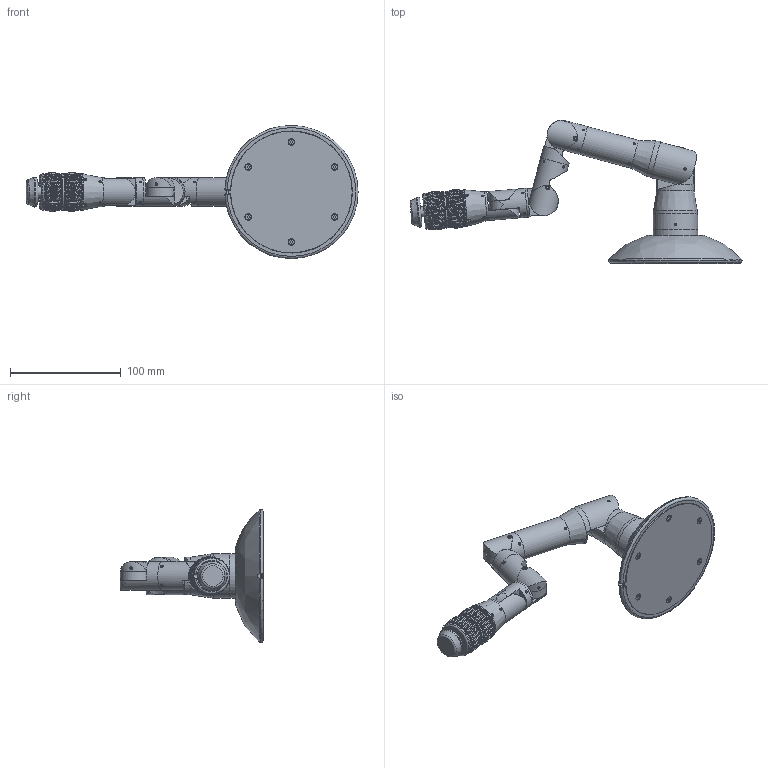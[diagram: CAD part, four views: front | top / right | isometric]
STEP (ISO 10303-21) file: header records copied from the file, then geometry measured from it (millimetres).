
FILE_DESCRIPTION(/* description */ ('Assembly Manipulator Master Control Arm USB V2','CAx-IF Rec.Pracs.---Representation and Presentation of Product Manufacturing Information (PMI)---4.0---2014-10-13'),/* implementation_level */ '2;1');
FILE_NAME(/* name */ '117012 v1.step',/* time_stamp */ '2024-12-18T11:51:30+01:00',/* author */ (''),/* organization */ (''),/* preprocessor_version */ 'ST-DEVELOPER v20',/* originating_system */ 'Autodesk Translation Framework v13.20.0.188',/* authorisation */ '');
FILE_SCHEMA (('AP242_MANAGED_MODEL_BASED_3D_ENGINEERING_MIM_LF { 1 0 10303 442 1 1 4 }'));
Products named in the file (26): 117012; 117462; 117273; 117013; 117016; 117025; 117017; 116997; 116996; 117148; 117149; 119113; 106975; 117009; 117274; 117350; 115514; 117665; 117023; 117538; 119189; 117022; 117021; 120484; 100882; 120494
Assembly tree (70 placements, depth 2):
  117012
    117462
    117273
    117013
    117016
    116997  x2
    117025
    117017
    116996  x2
    117148
    117149
    119113
    106975  x2
    117009  x3
    117274  x3
    117023  x32
    117350
    115514
    117665  x3
    117538
    119189
    117022
    117021
    120484
    100882  x6
    120494
Bounding box: 299.15 x 129.11 x 119.98 mm (x, y, z)
Volume: 303683.3 mm3; surface area: 146819.2 mm2
Topology: 70 solids, 70 shells, 2354 faces, 6289 edges, 4243 vertices
Faces by surface type: plane 992, cylinder 966, bspline 212, cone 161, torus 22, sphere 1
Full cylindrical faces by diameter (mm): 1.3 x1, 1.48 x69, 1.6 x21, 1.65 x4, 2 x73, 2.05 x32, 2.1 x4, 2.2 x1, 2.5 x82, 2.529 x1, 3 x13, 3.2 x1, 3.8 x7, 4.299 x1, 5 x8, 5.35 x6, 6 x7, 6.1 x4, 6.3 x2, 7 x1, 8.1 x2, 9 x1, 11 x1, 14.9 x3, 16.5 x3, 17 x1, 19.9 x1, 21 x3, 22 x1, 23 x2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
Entity records: 57101 total; most frequent: CARTESIAN_POINT 21562, ORIENTED_EDGE 7362, DIRECTION 7030, EDGE_CURVE 3681, AXIS2_PLACEMENT_3D 2710, VERTEX_POINT 2483, EDGE_LOOP 1622, LINE 1610
